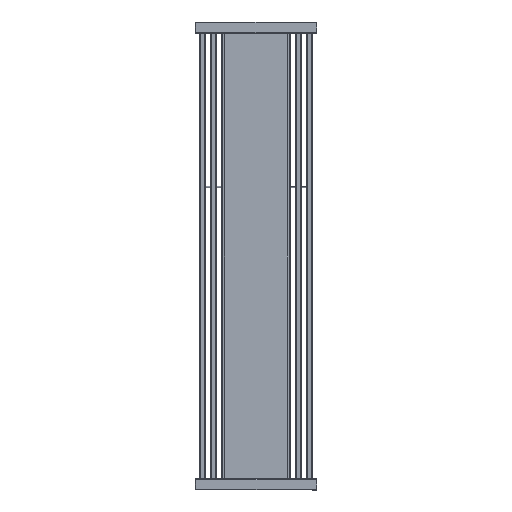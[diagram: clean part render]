
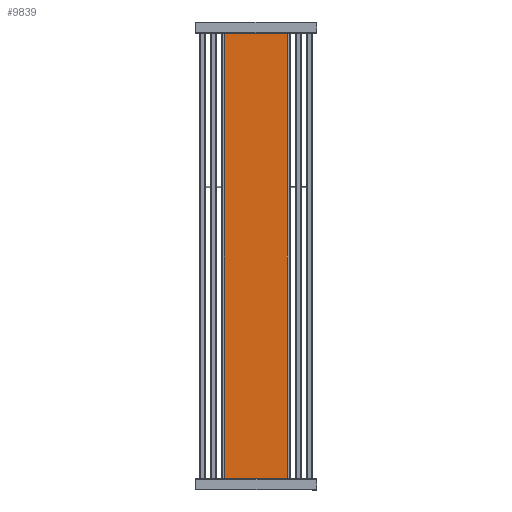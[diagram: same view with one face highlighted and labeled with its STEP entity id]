
A CAD part, front view. The second image highlights one B-rep face of the part: STEP entity #9839.
In plain terms, the highlighted planar face has unit normal (0, -1, 0).
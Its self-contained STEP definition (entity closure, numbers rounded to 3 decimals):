
#9654=CARTESIAN_POINT('',(-114.,-17.,42.5));
#9655=VERTEX_POINT('',#9654);
#9656=CARTESIAN_POINT('',(-114.,-17.,1657.5));
#9657=VERTEX_POINT('',#9656);
#9658=CARTESIAN_POINT('',(-114.,-17.,42.5));
#9659=DIRECTION('',(0.0,0.0,1.0));
#9660=VECTOR('',#9659,1615.0);
#9661=LINE('',#9658,#9660);
#9662=EDGE_CURVE('',#9655,#9657,#9661,.T.);
#9694=CARTESIAN_POINT('',(114.,-17.,1657.5));
#9695=VERTEX_POINT('',#9694);
#9696=CARTESIAN_POINT('',(-114.,-17.,1657.5));
#9697=DIRECTION('',(1.0,0.0,0.0));
#9698=VECTOR('',#9697,228.);
#9699=LINE('',#9696,#9698);
#9700=EDGE_CURVE('',#9657,#9695,#9699,.T.);
#9725=CARTESIAN_POINT('',(114.,-17.,42.5));
#9726=VERTEX_POINT('',#9725);
#9727=CARTESIAN_POINT('',(114.,-17.,1657.5));
#9728=DIRECTION('',(0.0,0.0,-1.0));
#9729=VECTOR('',#9728,1615.0);
#9730=LINE('',#9727,#9729);
#9731=EDGE_CURVE('',#9695,#9726,#9730,.T.);
#9756=CARTESIAN_POINT('',(114.,-17.,42.5));
#9757=DIRECTION('',(-1.0,0.0,0.0));
#9758=VECTOR('',#9757,228.);
#9759=LINE('',#9756,#9758);
#9760=EDGE_CURVE('',#9726,#9655,#9759,.T.);
#9828=CARTESIAN_POINT('',(0.,-17.,850.));
#9829=DIRECTION('',(0.0,-1.0,0.0));
#9830=DIRECTION('',(-1.0,0.0,0.0));
#9831=AXIS2_PLACEMENT_3D('',#9828,#9829,#9830);
#9832=PLANE('',#9831);
#9833=ORIENTED_EDGE('',*,*,#9662,.F.);
#9834=ORIENTED_EDGE('',*,*,#9760,.F.);
#9835=ORIENTED_EDGE('',*,*,#9731,.F.);
#9836=ORIENTED_EDGE('',*,*,#9700,.F.);
#9837=EDGE_LOOP('',(#9833,#9834,#9835,#9836));
#9838=FACE_OUTER_BOUND('',#9837,.T.);
#9839=ADVANCED_FACE('',(#9838),#9832,.T.);
